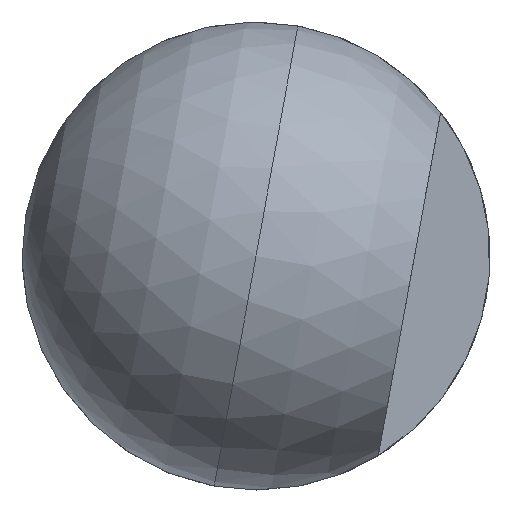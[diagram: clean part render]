
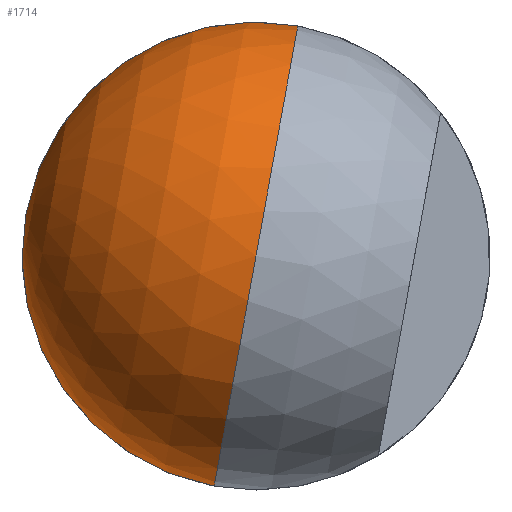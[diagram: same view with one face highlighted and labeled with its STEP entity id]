
A CAD part, front view. The second image highlights one B-rep face of the part: STEP entity #1714.
In plain terms, the highlighted spherical face has radius 6 mm.
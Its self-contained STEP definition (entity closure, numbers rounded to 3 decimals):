
#17 = VERTEX_POINT ( 'NONE', #1623 ) ;
#194 = DIRECTION ( 'NONE',  ( 0., 1., 0. ) ) ;
#206 = ORIENTED_EDGE ( 'NONE', *, *, #1284, .T. ) ;
#213 = DIRECTION ( 'NONE',  ( 1., 0., 0. ) ) ;
#519 = EDGE_CURVE ( 'NONE', #17, #1177, #1407, .T. ) ;
#773 = CARTESIAN_POINT ( 'NONE',  ( 0., 0., 79. ) ) ;
#798 = VERTEX_POINT ( 'NONE', #1372 ) ;
#810 = CIRCLE ( 'NONE', #1068, 6. ) ;
#1042 = DIRECTION ( 'NONE',  ( 0., 0., -1. ) ) ;
#1068 = AXIS2_PLACEMENT_3D ( 'NONE', #1771, #2018, #1042 ) ;
#1168 = AXIS2_PLACEMENT_3D ( 'NONE', #773, #2640, #1437 ) ;
#1177 = VERTEX_POINT ( 'NONE', #1817 ) ;
#1284 = EDGE_CURVE ( 'NONE', #798, #1177, #810, .T. ) ;
#1309 = AXIS2_PLACEMENT_3D ( 'NONE', #1487, #2909, #2456 ) ;
#1372 = CARTESIAN_POINT ( 'NONE',  ( 6., 0., 79. ) ) ;
#1404 = SPHERICAL_SURFACE ( 'NONE', #2722, 6. ) ;
#1407 = CIRCLE ( 'NONE', #1309, 6. ) ;
#1408 = CIRCLE ( 'NONE', #1168, 6. ) ;
#1437 = DIRECTION ( 'NONE',  ( -1., 0., 0. ) ) ;
#1487 = CARTESIAN_POINT ( 'NONE',  ( 0., 0., 79. ) ) ;
#1576 = EDGE_LOOP ( 'NONE', ( #1740, #2086, #206 ) ) ;
#1623 = CARTESIAN_POINT ( 'NONE',  ( -6., 0., 79. ) ) ;
#1714 = ADVANCED_FACE ( 'NONE', ( #2142 ), #1404, .T. ) ;
#1740 = ORIENTED_EDGE ( 'NONE', *, *, #519, .F. ) ;
#1771 = CARTESIAN_POINT ( 'NONE',  ( 0., 0., 79. ) ) ;
#1817 = CARTESIAN_POINT ( 'NONE',  ( 0., 0., 85. ) ) ;
#2018 = DIRECTION ( 'NONE',  ( 0., -1., 0. ) ) ;
#2086 = ORIENTED_EDGE ( 'NONE', *, *, #2096, .F. ) ;
#2096 = EDGE_CURVE ( 'NONE', #798, #17, #1408, .T. ) ;
#2142 = FACE_OUTER_BOUND ( 'NONE', #1576, .T. ) ;
#2397 = CARTESIAN_POINT ( 'NONE',  ( 0., 0., 79. ) ) ;
#2456 = DIRECTION ( 'NONE',  ( -1., 0., 0. ) ) ;
#2640 = DIRECTION ( 'NONE',  ( 0., 0., -1. ) ) ;
#2722 = AXIS2_PLACEMENT_3D ( 'NONE', #2397, #194, #213 ) ;
#2909 = DIRECTION ( 'NONE',  ( 0., 1., 0. ) ) ;
